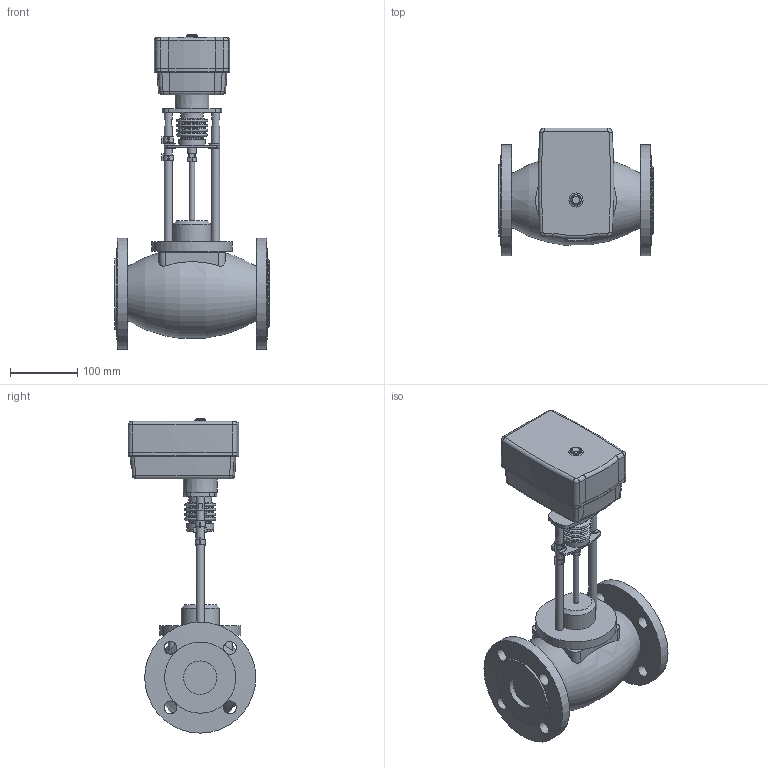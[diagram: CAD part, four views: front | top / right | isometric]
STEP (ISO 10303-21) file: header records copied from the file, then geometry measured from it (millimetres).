
FILE_DESCRIPTION(/* description */ ('Unknown'),/* implementation_level */ '2;1');
FILE_NAME(/* name */ 'Клапан TRV-P-050-101',/* time_stamp */ '2021-12-06T17:14:35+03:00',/* author */ ('Unknown'),/* organization */ ('Unknown'),/* preprocessor_version */ 'ST-DEVELOPER v16.7',/* originating_system */ 'DEX',/* authorisation */ $);
FILE_SCHEMA (('AUTOMOTIVE_DESIGN {1 0 10303 214 3 1 1}'));
Length unit declared in the file: millimetre
Products named in the file (1): 抔黽鳧 TRV-P-050-101
Bounding box: 230 x 189.46 x 466.9 mm (x, y, z)
Surface area: 309983.6 mm2 (no closed solid volume)
Topology: 0 solids, 1 shells, 305 faces, 791 edges, 505 vertices
Faces by surface type: plane 151, cylinder 77, torus 40, cone 27, bspline 6, sphere 4
Full cylindrical faces by diameter (mm): 8.2 x1, 12.002 x4, 13 x1, 15 x1, 19 x8, 33.4 x1, 33.972 x1, 40 x1, 49.6 x2, 57 x1, 93.449 x1, 105.788 x1, 120 x1, 165 x2
Entity records: 11302 total; most frequent: CARTESIAN_POINT 2104, DIRECTION 1492, ORIENTED_EDGE 1370, EDGE_CURVE 685, AXIS2_PLACEMENT_3D 581, VERTEX_POINT 462, EDGE_LOOP 409, FACE_BOUND 409
